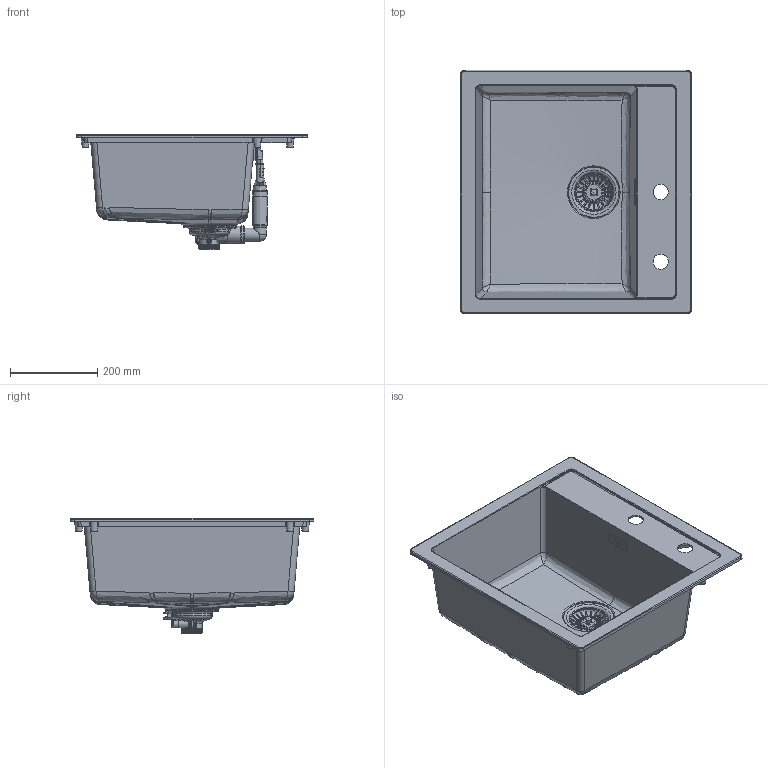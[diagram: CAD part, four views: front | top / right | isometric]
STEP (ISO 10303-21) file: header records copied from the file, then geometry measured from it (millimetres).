
FILE_DESCRIPTION(/* description */ ('SID 610'),/* implementation_level */ '2;1');
FILE_NAME(/* name */ 'N:\GLOB_FKI_Product_Information\Sinks_Bowls\Franke\Product Information Colored Sinks\Verkaufsunterlagen\Tectonite\Sirius\SID 610\3D stp\SID_610.stp',/* time_stamp */ '2018-03-05T15:34:24+01:00',/* author */ ('AM049'),/* organization */ (''),/* preprocessor_version */ 'ST-DEVELOPER v16.1',/* originating_system */ 'Autodesk Inventor 2016',/* authorisation */ '');
FILE_SCHEMA (('AUTOMOTIVE_DESIGN { 1 0 10303 214 3 1 1 }'));
Length unit declared in the file: millimetre
Products named in the file (1): 0056-217310
Bounding box: 530 x 560 x 265 mm (x, y, z)
Volume: 2700767.2 mm3; surface area: 1372967.3 mm2
Topology: 22 solids, 27 shells, 4874 faces, 13136 edges, 8361 vertices
Faces by surface type: plane 2422, bspline 1214, cylinder 605, torus 346, cone 228, sphere 59
Full cylindrical faces by diameter (mm): 3.242 x1, 4 x1, 4.5 x2, 4.7 x1, 4.85 x1, 5.2 x1, 5.25 x1, 5.85 x2, 6 x5, 6.01 x1, 6.2 x1, 8 x4, 8.25 x1, 9 x2, 12 x1, 12.5 x9, 12.6 x1, 13.743 x1, 14.3 x1, 16 x1, 16.941 x1, 26 x2, 27 x1, 30 x4, 33.75 x1, 34 x2, 35 x2, 36.5 x1, 39 x2, 40.5 x1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
Entity records: 187133 total; most frequent: CARTESIAN_POINT 69170, ORIENTED_EDGE 25466, DIRECTION 19886, EDGE_CURVE 12718, VERTEX_POINT 8276, LINE 6938, VECTOR 6938, AXIS2_PLACEMENT_3D 6474
